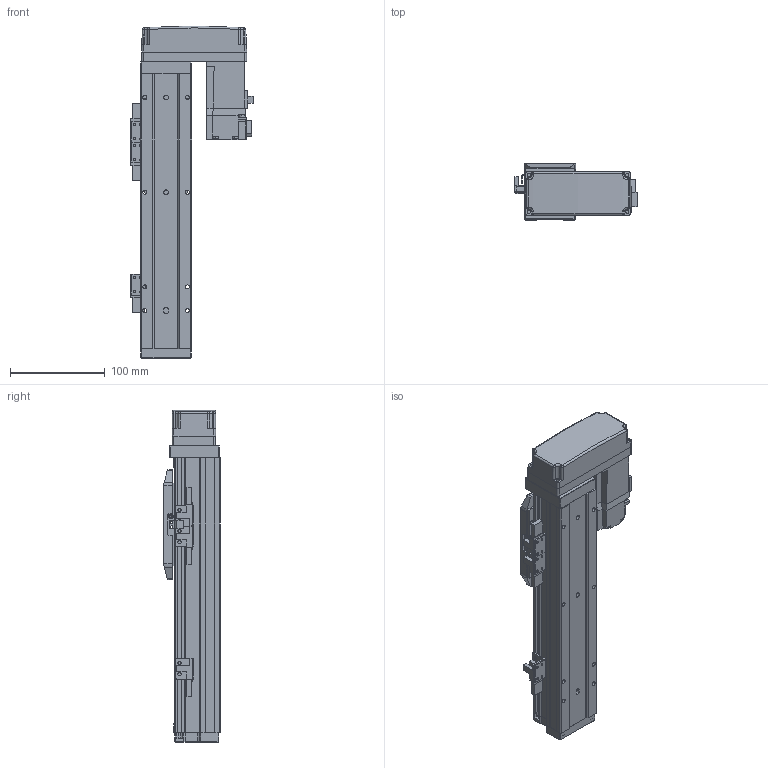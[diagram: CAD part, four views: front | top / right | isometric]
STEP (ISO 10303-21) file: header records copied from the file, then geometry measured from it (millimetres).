
FILE_DESCRIPTION (( 'STEP AP214' ), '1' );
FILE_NAME ('N_GRH5-150-BL-M10.step', '2025-03-14T09:45:15', ( '' ), ( '' ), 'SwSTEP 2.0', 'SolidWorks 2016', '' );
FILE_SCHEMA (( 'AUTOMOTIVE_DESIGN' ));
Length unit declared in the file: millimetre
Products named in the file (5): N_GRH5-GY-004^N_GRH5-150-BL-M10; N_GRH5-GY-011^N_GRH5-150-BL-M10; HF-KP13_100W_Motor^N_GRH5-150-BL-M10; N_GRH5-BL-008^N_GRH5-150-BL-M10; N_GRH5-150-BL-M10
Assembly tree (4 placements, depth 2):
  N_GRH5-150-BL-M10
    N_GRH5-GY-011^N_GRH5-150-BL-M10
    N_GRH5-GY-004^N_GRH5-150-BL-M10
    HF-KP13_100W_Motor^N_GRH5-150-BL-M10
    N_GRH5-BL-008^N_GRH5-150-BL-M10
Bounding box: 128.85 x 60 x 350.5 mm (x, y, z)
Volume: 910633.1 mm3; surface area: 211307.3 mm2
Topology: 4 solids, 5 shells, 894 faces, 2304 edges, 1465 vertices
Faces by surface type: plane 549, cylinder 290, cone 30, bspline 15, sphere 10
Entity records: 34213 total; most frequent: CARTESIAN_POINT 5501, DIRECTION 4593, ORIENTED_EDGE 4560, EDGE_CURVE 2280, LINE 1607, VECTOR 1607, AXIS2_PLACEMENT_3D 1493, VERTEX_POINT 1463
